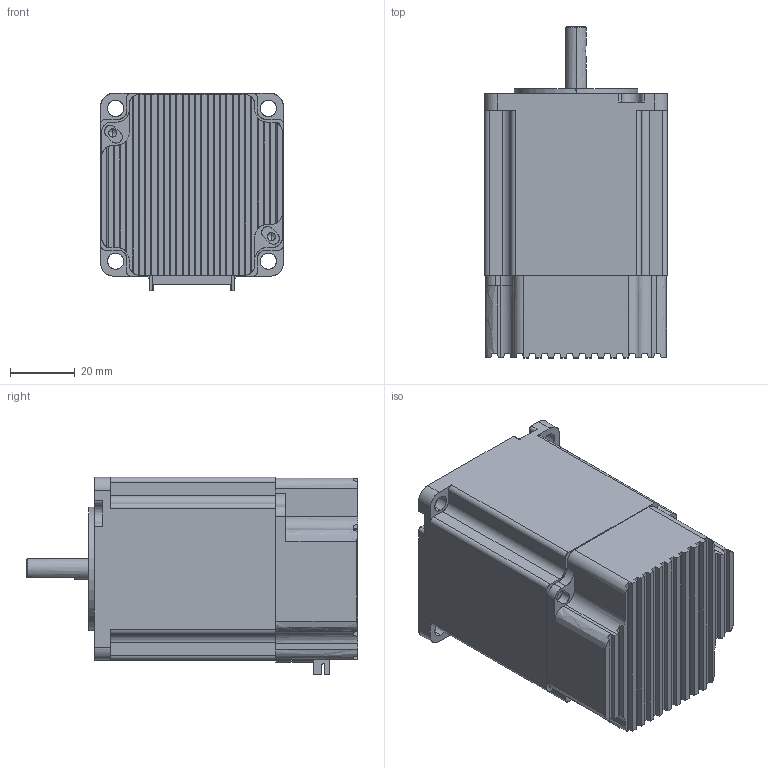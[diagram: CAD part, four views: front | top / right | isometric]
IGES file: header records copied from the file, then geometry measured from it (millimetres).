
Start section: SolidWorks IGES file using analytic representation for surfaces
Global section: file name: C:\Users\IEUser\Dropbox\Arcus\Project #23 DMX Drawings\DMX-K-SA-23\CSu files\DMX-K-SA-23-2.IGS; native system: SolidWorks 2008; preprocessor: SolidWorks 2008; author: IEUser; date: 140127.212926; units: millimetre
Bounding box: 56.4 x 102.4 x 60.84 mm (x, y, z)
Surface area: 38472.5 mm2 (no closed solid volume)
Topology: 0 solids, 0 shells, 1077 faces, 8106 edges, 8078 vertices
Faces by surface type: bspline 871, revolution 206
